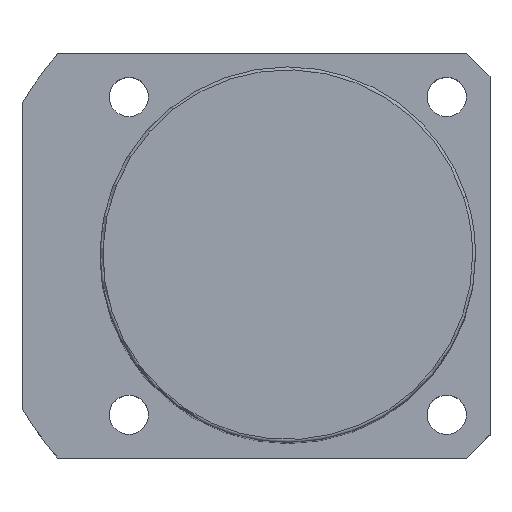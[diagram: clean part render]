
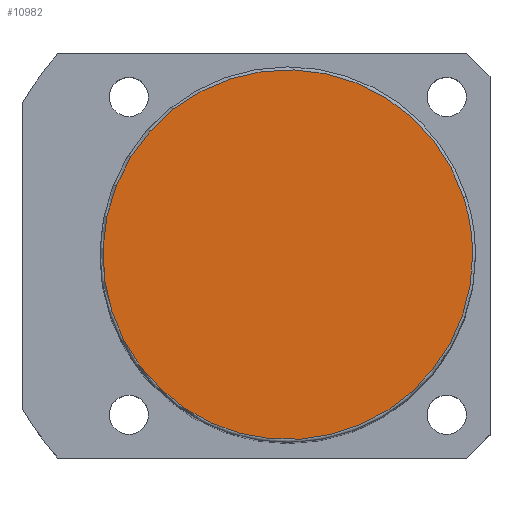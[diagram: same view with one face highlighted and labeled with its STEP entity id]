
A CAD part, top view. The second image highlights one B-rep face of the part: STEP entity #10982.
In plain terms, the highlighted planar face has unit normal (0, 0, 1).
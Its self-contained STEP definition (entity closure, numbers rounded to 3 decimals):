
#10915=CARTESIAN_POINT('',(30.434,9.889,131.0));
#10916=VERTEX_POINT('',#10915);
#10934=CARTESIAN_POINT('',(-30.434,-9.889,131.0));
#10935=VERTEX_POINT('',#10934);
#10943=CARTESIAN_POINT('',(0.0,0.0,131.0));
#10944=DIRECTION('',(0.0,0.0,1.0));
#10945=DIRECTION('',(1.0,0.0,0.0));
#10946=AXIS2_PLACEMENT_3D('',#10943,#10944,#10945);
#10947=CIRCLE('',#10946,32.0);
#10948=EDGE_CURVE('no 4897',#10916,#10935,#10947,.T.);
#10958=CARTESIAN_POINT('',(32.0,0.0,131.0));
#10959=VERTEX_POINT('',#10958);
#10960=CARTESIAN_POINT('',(0.0,0.0,131.0));
#10961=DIRECTION('',(0.0,0.0,1.0));
#10962=DIRECTION('',(1.0,0.0,0.0));
#10963=AXIS2_PLACEMENT_3D('',#10960,#10961,#10962);
#10964=CIRCLE('',#10963,32.0);
#10965=EDGE_CURVE('no 4906',#10959,#10916,#10964,.T.);
#10966=ORIENTED_EDGE('',*,*,#10965,.T.);
#10967=ORIENTED_EDGE('',*,*,#10948,.T.);
#10968=CARTESIAN_POINT('',(0.0,0.0,131.0));
#10969=DIRECTION('',(0.0,0.0,1.0));
#10970=DIRECTION('',(1.0,0.0,0.0));
#10971=AXIS2_PLACEMENT_3D('',#10968,#10969,#10970);
#10972=CIRCLE('',#10971,32.0);
#10973=EDGE_CURVE('no 4912',#10935,#10959,#10972,.T.);
#10974=ORIENTED_EDGE('',*,*,#10973,.T.);
#10975=EDGE_LOOP('',(#10966,#10967,#10974));
#10976=FACE_OUTER_BOUND('',#10975,.T.);
#10977=CARTESIAN_POINT('',(0.0,0.0,131.0));
#10978=DIRECTION('',(0.0,0.0,1.0));
#10979=DIRECTION('',(1.0,0.0,0.0));
#10980=AXIS2_PLACEMENT_3D('',#10977,#10978,#10979);
#10981=PLANE('',#10980);
#10982=ADVANCED_FACE('no 4899',(#10976),#10981,.T.);
